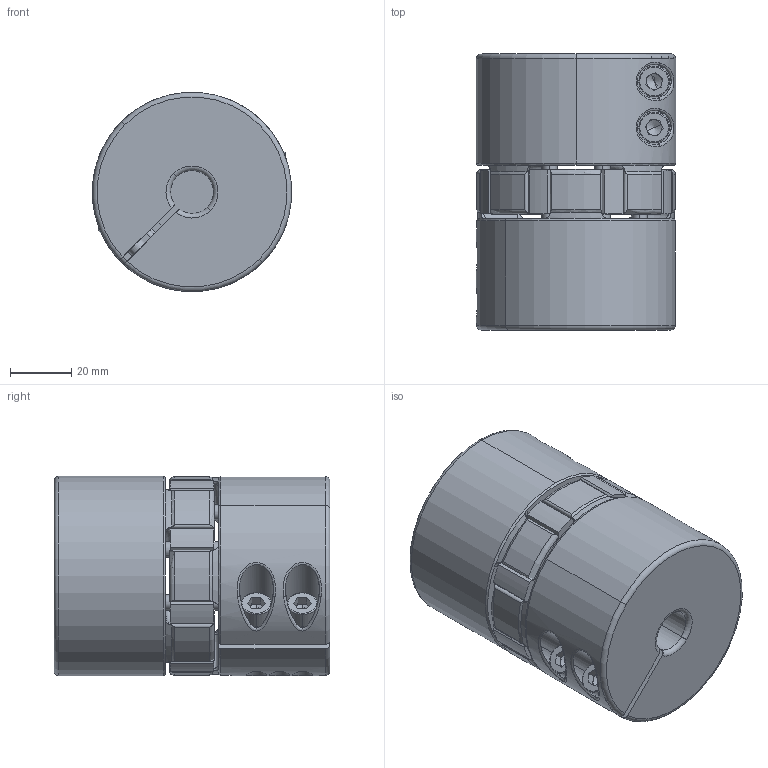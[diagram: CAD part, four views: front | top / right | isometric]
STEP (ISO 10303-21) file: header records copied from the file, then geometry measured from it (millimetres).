
FILE_DESCRIPTION (( 'STEP AP203' ), '1' );
FILE_NAME ('DXA-65X90-14-14.STEP', '2023-10-18T06:08:18', ( '' ), ( '' ), 'SwSTEP 2.0', 'SolidWorks 2020', '' );
FILE_SCHEMA (( 'CONFIG_CONTROL_DESIGN' ));
Length unit declared in the file: millimetre
Products named in the file (5): DXA65X90媼唗CNC; socket set screw dog point_iso_ISO M6 x 12 ÎÞÍ·; 65繩豪菜; socket head cap screw_iso_ISO 4762 M6 x 20 - 20C; DXA-65X90-14-14
Assembly tree (9 placements, depth 2):
  DXA-65X90-14-14
    65繩豪菜
    DXA65X90媼唗CNC  x2
    socket head cap screw_iso_ISO 4762 M6 x 20 - 20C  x4
    socket set screw dog point_iso_ISO M6 x 12 ÎÞÍ·  x2
Bounding box: 64.98 x 90 x 65 mm (x, y, z)
Volume: 263702 mm3; surface area: 56897.1 mm2
Topology: 9 solids, 9 shells, 529 faces, 1311 edges, 826 vertices
Faces by surface type: cylinder 229, plane 120, torus 118, cone 38, bspline 24
Entity records: 13024 total; most frequent: CARTESIAN_POINT 5612, DIRECTION 1509, ORIENTED_EDGE 1386, EDGE_CURVE 693, AXIS2_PLACEMENT_3D 652, VERTEX_POINT 445, CIRCLE 374, EDGE_LOOP 310
